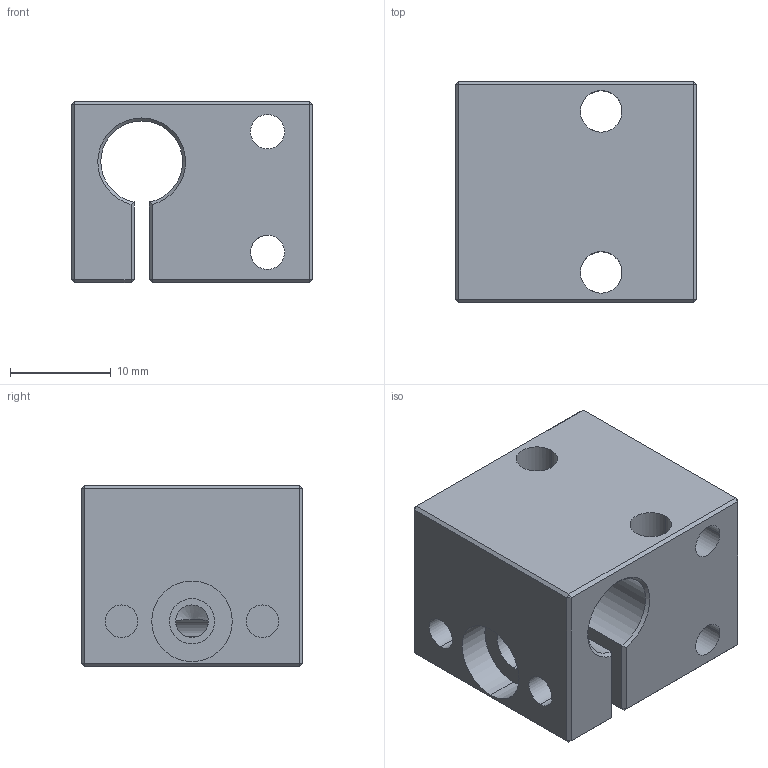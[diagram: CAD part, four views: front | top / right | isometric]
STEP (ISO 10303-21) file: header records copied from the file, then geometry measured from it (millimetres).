
FILE_DESCRIPTION((''),'2;1');
FILE_NAME('Z0482373-01','2017-02-09T',('11000065'),(''),'CREO PARAMETRIC BY PTC INC, 2016260','CREO PARAMETRIC BY PTC INC, 2016260','');
FILE_SCHEMA(('AUTOMOTIVE_DESIGN { 1 0 10303 214 1 1 1 1 }'));
Length unit declared in the file: millimetre
Products named in the file (1): Z0482373-01
Bounding box: 24 x 22 x 18 mm (x, y, z)
Surface area: 4647.7 mm2 (no closed solid volume)
Topology: 0 solids, 1 shells, 76 faces, 193 edges, 116 vertices
Faces by surface type: plane 42, cylinder 27, cone 7
Entity records: 3776 total; most frequent: CARTESIAN_POINT 1292, ORIENTED_EDGE 378, DIRECTION 367, PRESENTATION_STYLE_ASSIGNMENT 194, STYLED_ITEM 194, CURVE_STYLE 193, EDGE_CURVE 193, AXIS2_PLACEMENT_3D 132
